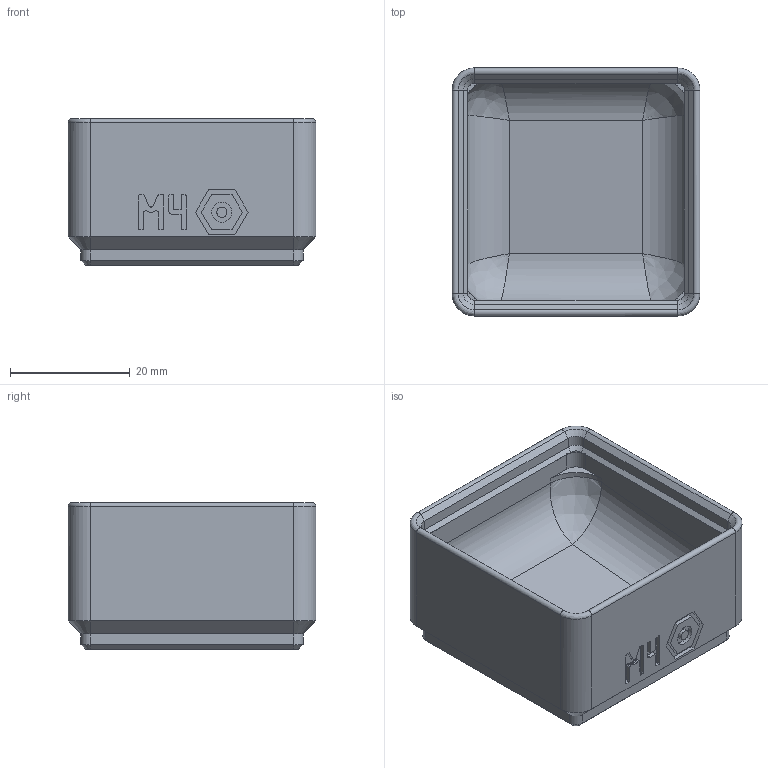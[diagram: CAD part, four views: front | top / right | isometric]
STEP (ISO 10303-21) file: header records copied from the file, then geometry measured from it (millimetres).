
FILE_DESCRIPTION(('Open CASCADE Model'),'2;1');
FILE_NAME('Open CASCADE Shape Model','2026-11-03T17:57:23',('Author'),( 'Open CASCADE'),'Open CASCADE STEP processor 8.0','build123d', 'Unknown');
FILE_SCHEMA(('AUTOMOTIVE_DESIGN { 1 0 10303 214 1 1 1 1 }'));
Length unit declared in the file: millimetre
Products named in the file (1): COMPOUND
Bounding box: 41.5 x 41.5 x 24.55 mm (x, y, z)
Volume: 17028.3 mm3; surface area: 9228.1 mm2
Topology: 1 solids, 1 shells, 326 faces, 866 edges, 544 vertices
Faces by surface type: plane 260, cylinder 38, cone 20, bspline 8
Full cylindrical faces by diameter (mm): 1.7 x1, 3.38 x1
Entity records: 23106 total; most frequent: CARTESIAN_POINT 6771, DIRECTION 2700, LINE 1922, VECTOR 1922, ORIENTED_EDGE 1724, PCURVE 1724, DEFINITIONAL_REPRESENTATION 1724, EDGE_CURVE 862
